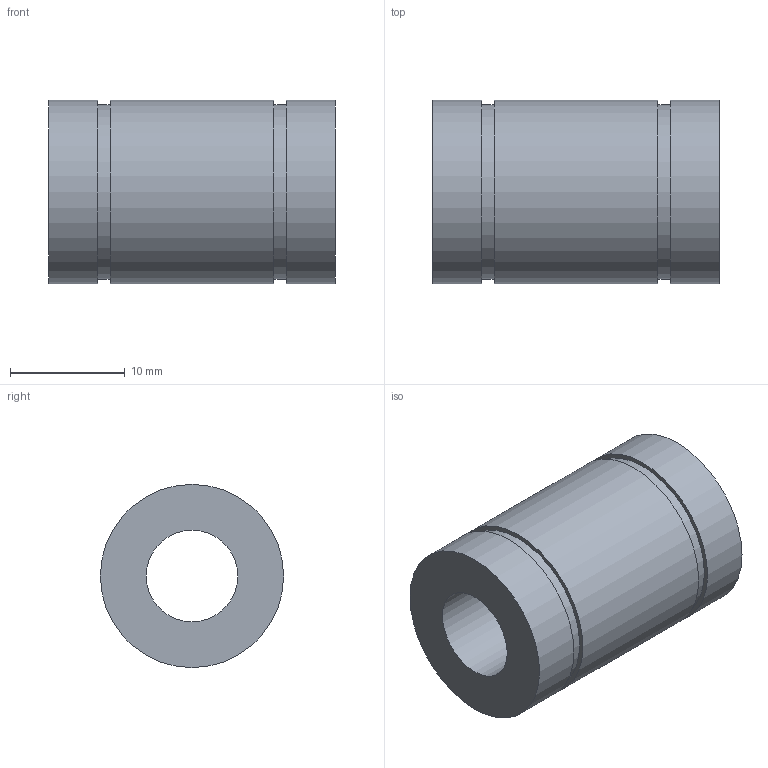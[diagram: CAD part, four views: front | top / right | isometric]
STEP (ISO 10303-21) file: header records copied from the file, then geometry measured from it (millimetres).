
FILE_DESCRIPTION( ( 'STEP AP203' ), '1' );
FILE_NAME( 'p:/temp/worker_103/temp/exporttempdir_2944_677_ho6rv/format_0/LME8UU.stp', '2020-04-29T03:06:30', ( 'License CC BY-ND 4.0' ), ( 'CADENAS' ), ' ', 'PARTsolutions', ' ' );
FILE_SCHEMA( ( 'CONFIG_CONTROL_DESIGN' ) );
Length unit declared in the file: millimetre
Products named in the file (1): _LME8UU
Bounding box: 25 x 16 x 16 mm (x, y, z)
Volume: 3726.8 mm3; surface area: 2259.4 mm2
Topology: 1 solids, 1 shells, 12 faces, 18 edges, 12 vertices
Faces by surface type: plane 6, cylinder 6
Full cylindrical faces by diameter (mm): 8 x1, 15.2 x2, 16 x3
Entity records: 292 total; most frequent: DIRECTION 50, CARTESIAN_POINT 37, AXIS2_PLACEMENT_3D 25, EDGE_LOOP 24, ORIENTED_EDGE 24, FACE_OUTER_BOUND 18, ADVANCED_FACE 12, EDGE_CURVE 12
